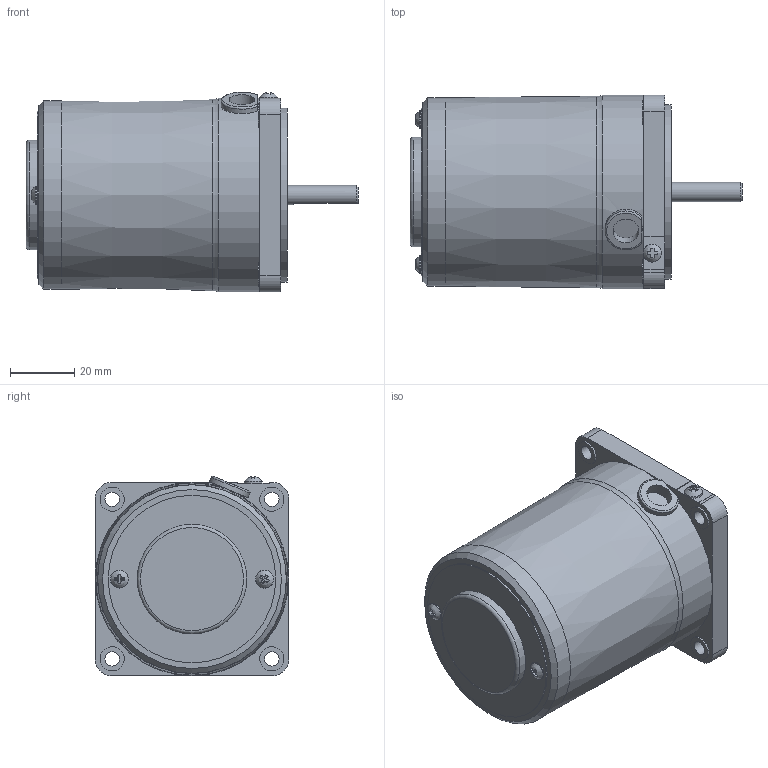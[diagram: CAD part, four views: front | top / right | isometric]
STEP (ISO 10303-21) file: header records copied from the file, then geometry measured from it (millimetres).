
FILE_DESCRIPTION(/* description */ (''),/* implementation_level */ '2;1');
FILE_NAME(/* name */ 'E:\도면작업\2016\0704) 미주향 SG 도면\3D MOTOR\SG6R\SG6R06D\SG6R06D_.stp',/* time_stamp */ '2016-12-12T16:13:11+09:00',/* author */ ('jy-jung'),/* organization */ (''),/* preprocessor_version */ 'ST-DEVELOPER v15.6',/* originating_system */ 'Autodesk Inventor 2015',/* authorisation */ '');
FILE_SCHEMA (('AUTOMOTIVE_DESIGN { 1 0 10303 214 3 1 1 }'));
Length unit declared in the file: millimetre
Products named in the file (1): 부품3
Bounding box: 103 x 60 x 61.91 mm (x, y, z)
Volume: 214227.2 mm3; surface area: 24222 mm2
Topology: 1 solids, 5 shells, 151 faces, 376 edges, 245 vertices
Faces by surface type: plane 100, cylinder 38, torus 7, bspline 3, cone 3
Full cylindrical faces by diameter (mm): 3 x2, 3.5 x2, 4.5 x4, 5.6 x3, 6 x1, 7.5 x4, 8 x1, 10.1 x1, 25 x1, 34 x1, 52 x1, 54 x1, 58.5 x1, 60 x1
Entity records: 4766 total; most frequent: CARTESIAN_POINT 1102, DIRECTION 691, ORIENTED_EDGE 682, EDGE_CURVE 341, AXIS2_PLACEMENT_3D 250, VERTEX_POINT 242, EDGE_LOOP 211, LINE 191
